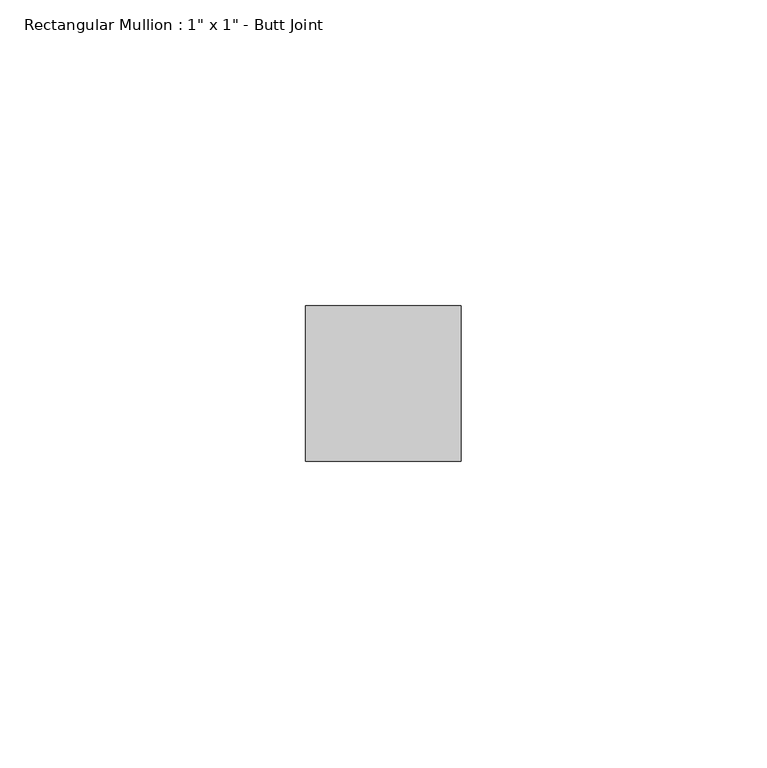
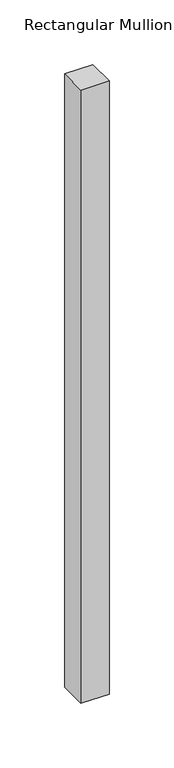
"""IFC4 building model written with IfcOpenShell, lengths in millimetres: member geometry."""

from ifc_helpers import new_model, si_unit, frame, origin, place, context, project, spatial, polyline, outline, extrude, source, transform, mapped, element, save


def member_79ff4cf2(model_context):
    return source(origin(), model_context, "Body", "SweptSolid", [
        extrude(outline(polyline([(12.7, 12.7), (12.7, -12.7), (-12.7, -12.7), (-12.7, 12.7), (12.7, 12.7)])), frame((0.0, 0.0, -579.9648817), z_axis=(0.0, 0.0, 1.0), x_axis=(1.0, 0.0, 0.0)), (0.0, 0.0, 1.0), 579.9648817),
    ])


if __name__ == "__main__":
    model = new_model("IFC4")
    model_context = context("Model", 3, world=origin())
    ifc_project = project(units=[si_unit("LENGTHUNIT", "METRE", prefix="MILLI")], contexts=[model_context])
    site = spatial("IfcSite", under=ifc_project)
    building = spatial("IfcBuilding", under=site)
    placement = place(None, origin())
    member_shape = member_79ff4cf2(model_context)
    element("IfcMember", 1, ObjectType="Rectangular Mullion : 1\" x 1\" - Butt Joint", at=placement, inside=building, context=model_context, shape_type="MappedRepresentation", body=[
        mapped(member_shape, transform((0.0, 0.0, 0.0), x_axis=(1.0, 0.0, 0.0), y_axis=(0.0, 1.0, 0.0), z_axis=(0.0, 0.0, 1.0))),
    ])
    save(model, "model.ifc")
